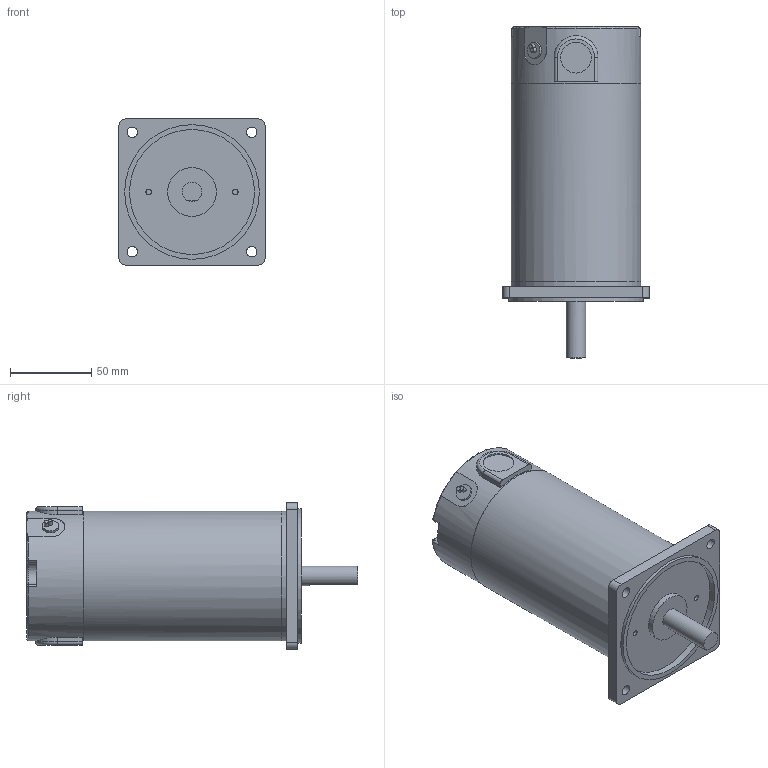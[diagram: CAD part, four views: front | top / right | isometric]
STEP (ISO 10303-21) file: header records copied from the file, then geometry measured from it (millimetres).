
FILE_DESCRIPTION((''),'2;1');
FILE_NAME('E:\2공장-도면\3D\표준형 3D(민규)\step\K9DS200N3.stp','2014-11-06T16:40:58',('AHN'),(''),'Autodesk Inventor 2012','Autodesk Inventor 2012','');
FILE_SCHEMA(('CONFIG_CONTROL_DESIGN'));
Length unit declared in the file: millimetre
Products named in the file (1): K9DS200N3
Bounding box: 90 x 204.5 x 90 mm (x, y, z)
Volume: 860621.7 mm3; surface area: 63776.1 mm2
Topology: 1 solids, 1 shells, 129 faces, 292 edges, 186 vertices
Faces by surface type: plane 63, cylinder 55, torus 7, sphere 4
Full cylindrical faces by diameter (mm): 2.6 x2, 3.4 x2, 6.5 x4, 10 x1, 12 x1, 19 x2, 30 x2, 77 x1, 80 x2, 80.1 x1, 83 x1
Entity records: 3628 total; most frequent: CARTESIAN_POINT 679, DIRECTION 650, ORIENTED_EDGE 540, EDGE_CURVE 270, AXIS2_PLACEMENT_3D 255, VERTEX_POINT 182, EDGE_LOOP 177, VECTOR 140
